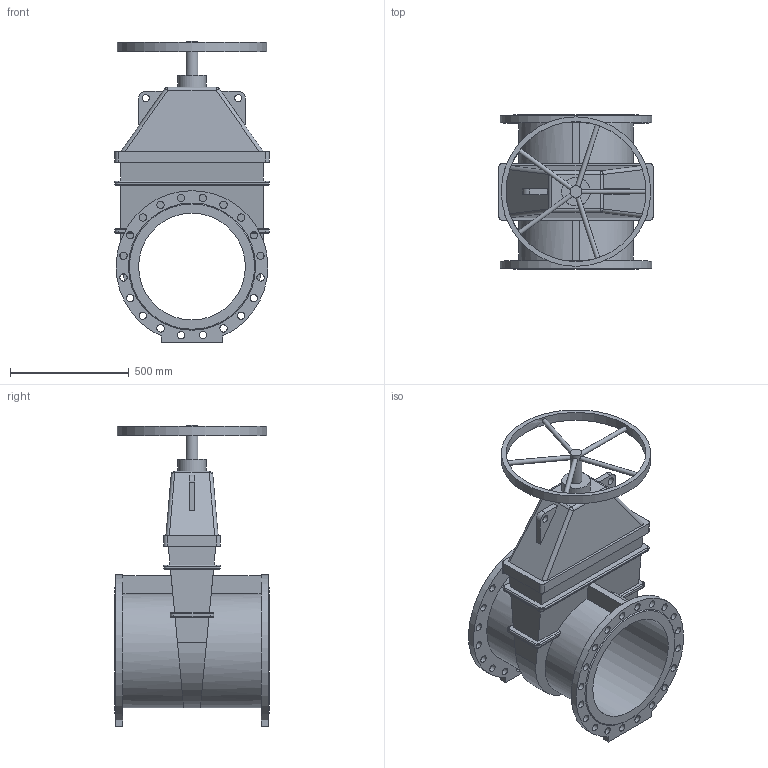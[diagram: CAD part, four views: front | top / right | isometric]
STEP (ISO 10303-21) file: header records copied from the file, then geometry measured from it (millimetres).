
FILE_DESCRIPTION(('STEP AP203'), '1');
FILE_NAME('Çàäâèæêà 47GV DN450 PN16_L650_W630 ñ ìàõîâèêîì', '', ('UNSPECIFIED'), ('UNSPECIFIED'), 'ASCON STEP Converter 1.6', 'ASCON Math Kernel', '');
FILE_SCHEMA(('CONFIG_CONTROL_DESIGN'));
Length unit declared in the file: millimetre
Bounding box: 650 x 650 x 1269 mm (x, y, z)
Volume: 88892171.7 mm3; surface area: 4101496.9 mm2
Topology: 1 solids, 1 shells, 211 faces, 537 edges, 340 vertices
Faces by surface type: cylinder 107, plane 82, bspline 12, torus 8, cone 2
Full cylindrical faces by diameter (mm): 20 x5, 30 x2, 31 x40, 50 x1, 120 x1, 450 x1, 590 x1, 630 x1
Entity records: 10341 total; most frequent: CARTESIAN_POINT 3568, DIRECTION 1020, ORIENTED_EDGE 956, EDGE_CURVE 478, AXIS2_PLACEMENT_3D 394, EDGE_LOOP 378, VERTEX_POINT 340, FACE_BOUND 271
